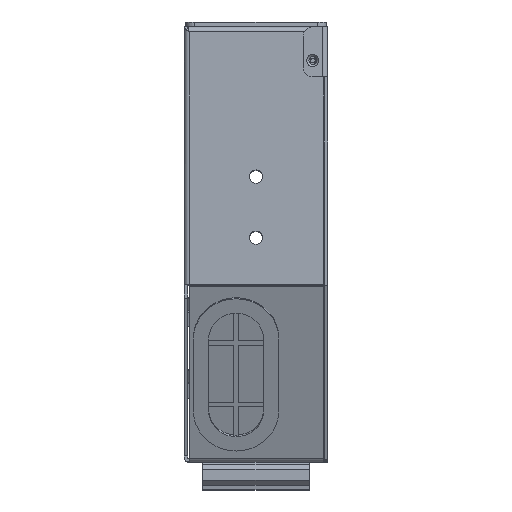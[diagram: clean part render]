
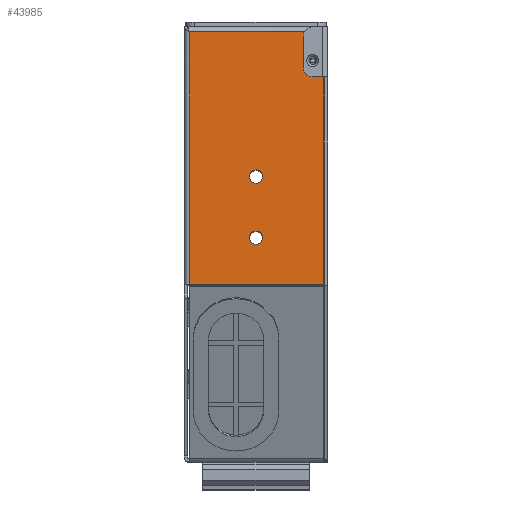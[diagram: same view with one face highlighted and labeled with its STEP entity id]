
A CAD part, top view. The second image highlights one B-rep face of the part: STEP entity #43985.
In plain terms, the highlighted planar face has unit normal (0, 0, 1).
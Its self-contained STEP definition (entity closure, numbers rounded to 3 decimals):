
#43768=CARTESIAN_POINT('',(0.5,69.6,65.));
#43769=VERTEX_POINT('',#43768);
#43857=CARTESIAN_POINT('',(44.6,-13.2,65.));
#43858=VERTEX_POINT('',#43857);
#43865=CARTESIAN_POINT('',(0.5,-13.2,65.));
#43866=VERTEX_POINT('',#43865);
#43867=CARTESIAN_POINT('',(0.5,-13.2,65.));
#43868=DIRECTION('',(1.,0.,-0.));
#43869=VECTOR('',#43868,44.1);
#43870=LINE('',#43867,#43869);
#43871=EDGE_CURVE('',#43866,#43858,#43870,.T.);
#43890=CARTESIAN_POINT('',(0.5,69.6,65.));
#43891=DIRECTION('',(0.,-1.,0.));
#43892=VECTOR('',#43891,82.8);
#43893=LINE('',#43890,#43892);
#43894=EDGE_CURVE('',#43769,#43866,#43893,.T.);
#43902=CARTESIAN_POINT('',(-1.1,-13.2,65.));
#43903=DIRECTION('',(0.,0.,1.));
#43904=DIRECTION('',(0.,-1.,0.));
#43905=AXIS2_PLACEMENT_3D('',#43902,#43903,#43904);
#43906=PLANE('',#43905);
#43907=CARTESIAN_POINT('',(44.6,69.6,65.));
#43908=VERTEX_POINT('',#43907);
#43909=CARTESIAN_POINT('',(44.6,-13.2,65.));
#43910=DIRECTION('',(-0.,1.,-0.));
#43911=VECTOR('',#43910,82.8);
#43912=LINE('',#43909,#43911);
#43913=EDGE_CURVE('',#43858,#43908,#43912,.T.);
#43914=ORIENTED_EDGE('',*,*,#43913,.T.);
#43915=CARTESIAN_POINT('',(0.5,69.6,65.));
#43916=DIRECTION('',(1.,0.,-0.));
#43917=VECTOR('',#43916,44.1);
#43918=LINE('',#43915,#43917);
#43919=EDGE_CURVE('',#43769,#43908,#43918,.T.);
#43920=ORIENTED_EDGE('',*,*,#43919,.F.);
#43921=ORIENTED_EDGE('',*,*,#43894,.T.);
#43922=ORIENTED_EDGE('',*,*,#43871,.T.);
#43923=EDGE_LOOP('',(#43914,#43920,#43921,#43922));
#43924=FACE_BOUND('',#43923,.T.);
#43925=CARTESIAN_POINT('',(40.2,60.2,65.));
#43926=VERTEX_POINT('',#43925);
#43927=CARTESIAN_POINT('',(41.,59.4,65.));
#43928=VERTEX_POINT('',#43927);
#43929=CARTESIAN_POINT('',(41.,60.2,65.));
#43930=DIRECTION('',(0.,0.,-1.));
#43931=DIRECTION('',(-1.,0.,0.));
#43932=AXIS2_PLACEMENT_3D('',#43929,#43930,#43931);
#43933=CIRCLE('',#43932,0.8);
#43934=EDGE_CURVE('',#43926,#43928,#43933,.T.);
#43935=ORIENTED_EDGE('',*,*,#43934,.T.);
#43936=CARTESIAN_POINT('',(41.,60.2,65.));
#43937=DIRECTION('',(0.,0.,-1.));
#43938=DIRECTION('',(-1.,0.,0.));
#43939=AXIS2_PLACEMENT_3D('',#43936,#43937,#43938);
#43940=CIRCLE('',#43939,0.8);
#43941=EDGE_CURVE('',#43928,#43926,#43940,.T.);
#43942=ORIENTED_EDGE('',*,*,#43941,.T.);
#43943=EDGE_LOOP('',(#43935,#43942));
#43944=FACE_BOUND('',#43943,.T.);
#43945=CARTESIAN_POINT('',(20.25,22.2,65.));
#43946=VERTEX_POINT('',#43945);
#43947=CARTESIAN_POINT('',(22.4,20.05,65.));
#43948=VERTEX_POINT('',#43947);
#43949=CARTESIAN_POINT('',(22.4,22.2,65.));
#43950=DIRECTION('',(0.,0.,-1.));
#43951=DIRECTION('',(-1.,0.,0.));
#43952=AXIS2_PLACEMENT_3D('',#43949,#43950,#43951);
#43953=CIRCLE('',#43952,2.15);
#43954=EDGE_CURVE('',#43946,#43948,#43953,.T.);
#43955=ORIENTED_EDGE('',*,*,#43954,.T.);
#43956=CARTESIAN_POINT('',(22.4,22.2,65.));
#43957=DIRECTION('',(0.,0.,-1.));
#43958=DIRECTION('',(-1.,0.,0.));
#43959=AXIS2_PLACEMENT_3D('',#43956,#43957,#43958);
#43960=CIRCLE('',#43959,2.15);
#43961=EDGE_CURVE('',#43948,#43946,#43960,.T.);
#43962=ORIENTED_EDGE('',*,*,#43961,.T.);
#43963=EDGE_LOOP('',(#43955,#43962));
#43964=FACE_BOUND('',#43963,.T.);
#43965=CARTESIAN_POINT('',(20.25,2.2,65.));
#43966=VERTEX_POINT('',#43965);
#43967=CARTESIAN_POINT('',(22.4,0.05,65.));
#43968=VERTEX_POINT('',#43967);
#43969=CARTESIAN_POINT('',(22.4,2.2,65.));
#43970=DIRECTION('',(0.,0.,-1.));
#43971=DIRECTION('',(-1.,0.,0.));
#43972=AXIS2_PLACEMENT_3D('',#43969,#43970,#43971);
#43973=CIRCLE('',#43972,2.15);
#43974=EDGE_CURVE('',#43966,#43968,#43973,.T.);
#43975=ORIENTED_EDGE('',*,*,#43974,.T.);
#43976=CARTESIAN_POINT('',(22.4,2.2,65.));
#43977=DIRECTION('',(0.,0.,-1.));
#43978=DIRECTION('',(-1.,0.,0.));
#43979=AXIS2_PLACEMENT_3D('',#43976,#43977,#43978);
#43980=CIRCLE('',#43979,2.15);
#43981=EDGE_CURVE('',#43968,#43966,#43980,.T.);
#43982=ORIENTED_EDGE('',*,*,#43981,.T.);
#43983=EDGE_LOOP('',(#43975,#43982));
#43984=FACE_BOUND('',#43983,.T.);
#43985=ADVANCED_FACE('',(#43924,#43944,#43964,#43984),#43906,.T.);
